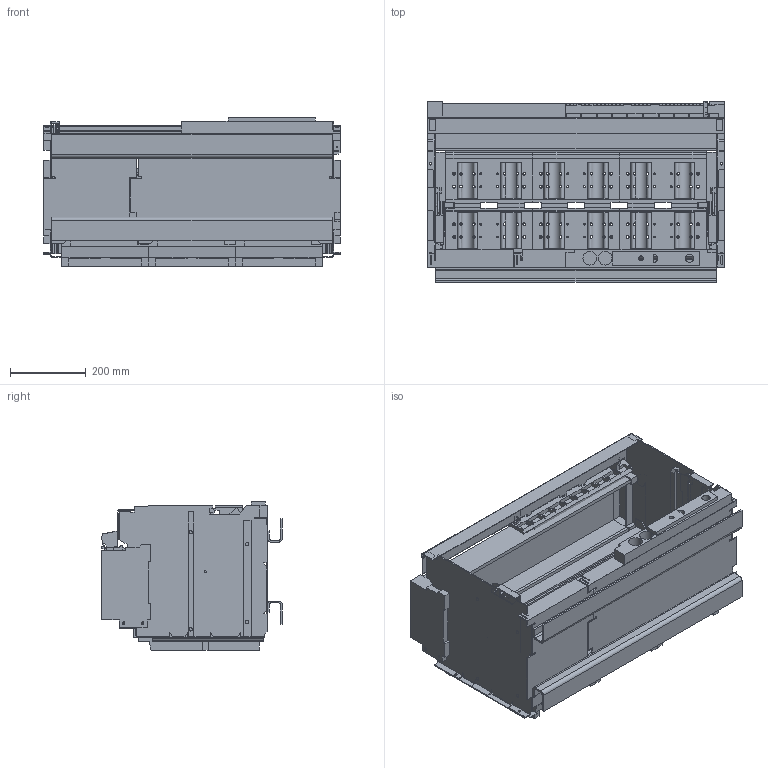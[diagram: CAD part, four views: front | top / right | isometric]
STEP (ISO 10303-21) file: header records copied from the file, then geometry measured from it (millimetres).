
FILE_DESCRIPTION((''),'2;1');
FILE_NAME('SB101437_3D-SIMPLIFIED_ASM','2012-12-05T',('render3d'),(''),'PRO/ENGINEER BY PARAMETRIC TECHNOLOGY CORPORATION, 2006170','PRO/ENGINEER BY PARAMETRIC TECHNOLOGY CORPORATION, 2006170','');
FILE_SCHEMA(('CONFIG_CONTROL_DESIGN'));
Length unit declared in the file: millimetre
Products named in the file (37): COQUE_ARRIERE_TD; RECTANGLE_COQUE_ARRIERE; COQUE_ARRIERE_CONNECTEUR_TD_ASM; COQUE_ARRIERE; COQUE_ARRIERE_CONNECTEUR_ASM; COQUE_ARRIERE_TG; COQUE_ARRIERE_CONNECTEUR_TG_ASM; PLAQUE_DROITE_CHASSIS; COQUE_HAUT_DROITE; PLAQUE_SUPPORT_COTE_DROITE; TIGE_ATTACHE_PLAQUE; TIGE_ATTACHE_PLAQUE_BAS; PLAQUE_SECONDAIRE_DROITE; MUR_DROITE_ASM; PLAQUE_GAUCHE_CHASSIS; COQUE_HAUT_GAUCHE; PLAQUE_SUPPORT_COTE_GAUCHE; PLAQUE_SECONDAIRE_GAUCHE; MUR_GAUCHE_ASM; PLAQUE_PRINCIPALE_BAS; PLAQUE_SECONDAIRE_BAS; TIGE_BAS_CHASSIS_6P; TIGE_HAUT_CHASSIS_6P; TIGE_SUPERIEUR_HAUT_6P; PLAQUE_SECONDAIRE_2_GAUCHE; PLAQUE_ATTACHE; PLAQUE_ASSEMBLAGE_2; VIS_ASSEMBLAGE; PLAQUE_ET_VIS_GAUCHE_ASM; PLAQUE_SECONDAIRE_2_DROITE; PLAQUE_ET_VIS_DROITE_ASM; FACE_AVANT_BAS; TIGE_COUVERCLE_TERMINAL_6P; PLAQUE_COUVERCLE_TERMINAL; PLAQUE_FACE_HAUT; TERMINAL_3POINT; SB101437_3D-SIMPLIFIED_ASM
Assembly tree (53 placements, depth 3):
  SB101437_3D-SIMPLIFIED_ASM
    COQUE_ARRIERE_CONNECTEUR_TD_ASM
      COQUE_ARRIERE_TD
      RECTANGLE_COQUE_ARRIERE  x4
    COQUE_ARRIERE_CONNECTEUR_ASM
      COQUE_ARRIERE
      RECTANGLE_COQUE_ARRIERE  x4
    COQUE_ARRIERE_CONNECTEUR_TG_ASM
      COQUE_ARRIERE_TG
      RECTANGLE_COQUE_ARRIERE  x4
    MUR_DROITE_ASM
      PLAQUE_DROITE_CHASSIS
      COQUE_HAUT_DROITE
      PLAQUE_SUPPORT_COTE_DROITE
      TIGE_ATTACHE_PLAQUE
      TIGE_ATTACHE_PLAQUE_BAS
      PLAQUE_SECONDAIRE_DROITE
    MUR_GAUCHE_ASM
      PLAQUE_GAUCHE_CHASSIS
      COQUE_HAUT_GAUCHE
      PLAQUE_SUPPORT_COTE_GAUCHE
      TIGE_ATTACHE_PLAQUE
      TIGE_ATTACHE_PLAQUE_BAS
      PLAQUE_SECONDAIRE_GAUCHE
    PLAQUE_PRINCIPALE_BAS
    PLAQUE_SECONDAIRE_BAS
    TIGE_BAS_CHASSIS_6P  x2
    TIGE_HAUT_CHASSIS_6P
    TIGE_SUPERIEUR_HAUT_6P
    PLAQUE_ET_VIS_GAUCHE_ASM
      PLAQUE_SECONDAIRE_2_GAUCHE
      PLAQUE_ATTACHE
      PLAQUE_ASSEMBLAGE_2
      VIS_ASSEMBLAGE
    PLAQUE_ET_VIS_DROITE_ASM
      PLAQUE_SECONDAIRE_2_DROITE
      PLAQUE_ATTACHE
      PLAQUE_ASSEMBLAGE_2
      VIS_ASSEMBLAGE
    FACE_AVANT_BAS
    TIGE_COUVERCLE_TERMINAL_6P
    PLAQUE_COUVERCLE_TERMINAL
    PLAQUE_FACE_HAUT
    TERMINAL_3POINT
Bounding box: 786 x 478.58 x 393.5 mm (x, y, z)
Volume: 18845443 mm3; surface area: 4652179.3 mm2
Topology: 46 solids, 46 shells, 2097 faces, 6138 edges, 4090 vertices
Faces by surface type: plane 1505, cylinder 592
Entity records: 57256 total; most frequent: CARTESIAN_POINT 10283, ORIENTED_EDGE 9834, DIRECTION 9235, EDGE_CURVE 4917, VECTOR 4199, LINE 4199, VERTEX_POINT 3278, AXIS2_PLACEMENT_3D 2518
